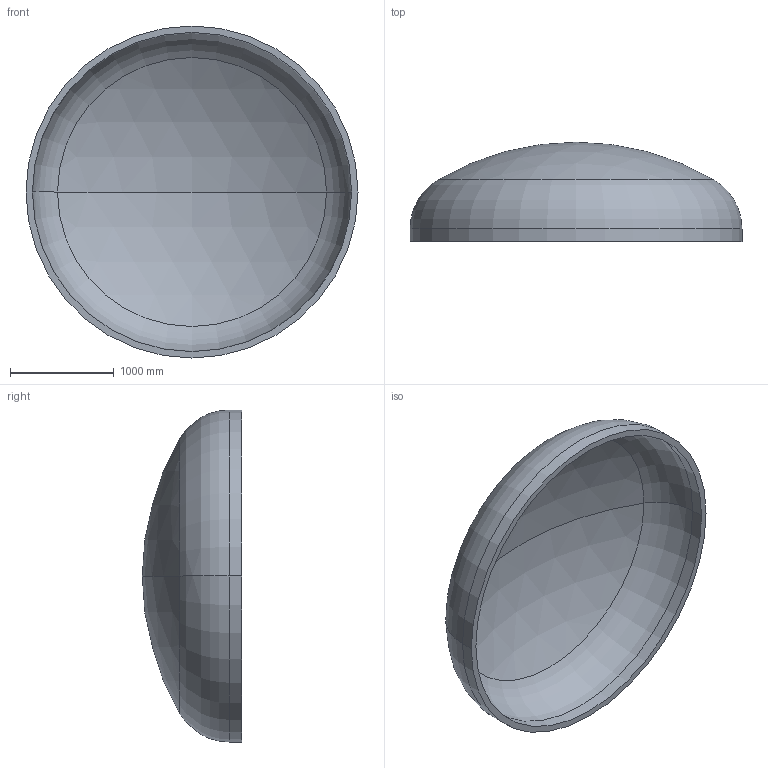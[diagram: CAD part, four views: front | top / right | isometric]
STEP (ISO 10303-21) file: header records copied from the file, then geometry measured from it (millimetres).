
FILE_DESCRIPTION (( 'STEP AP203' ), '1' );
FILE_NAME ('DIN 28013 Korbbogenform_-_Boden DIN 28013 - 3200 x 120 - I - s=62.step', '2016-07-01T18:46:24', ( '' ), ( '' ), 'SwSTEP 2.0', 'SolidWorks 2013', '' );
FILE_SCHEMA (( 'CONFIG_CONTROL_DESIGN' ));
Length unit declared in the file: millimetre
Products named in the file (1): DIN 28013 Korbbogenform_-_Boden DIN 28013 - 3200 x 120 - I - s=62
Bounding box: 3200 x 956.9 x 3200 mm (x, y, z)
Volume: 745787348.6 mm3; surface area: 24676914.7 mm2
Topology: 1 solids, 1 shells, 13 faces, 24 edges, 14 vertices
Faces by surface type: torus 4, cylinder 4, sphere 4, plane 1
Entity records: 407 total; most frequent: DIRECTION 72, CARTESIAN_POINT 52, ORIENTED_EDGE 48, AXIS2_PLACEMENT_3D 34, EDGE_CURVE 24, CIRCLE 20, EDGE_LOOP 14, VERTEX_POINT 14
